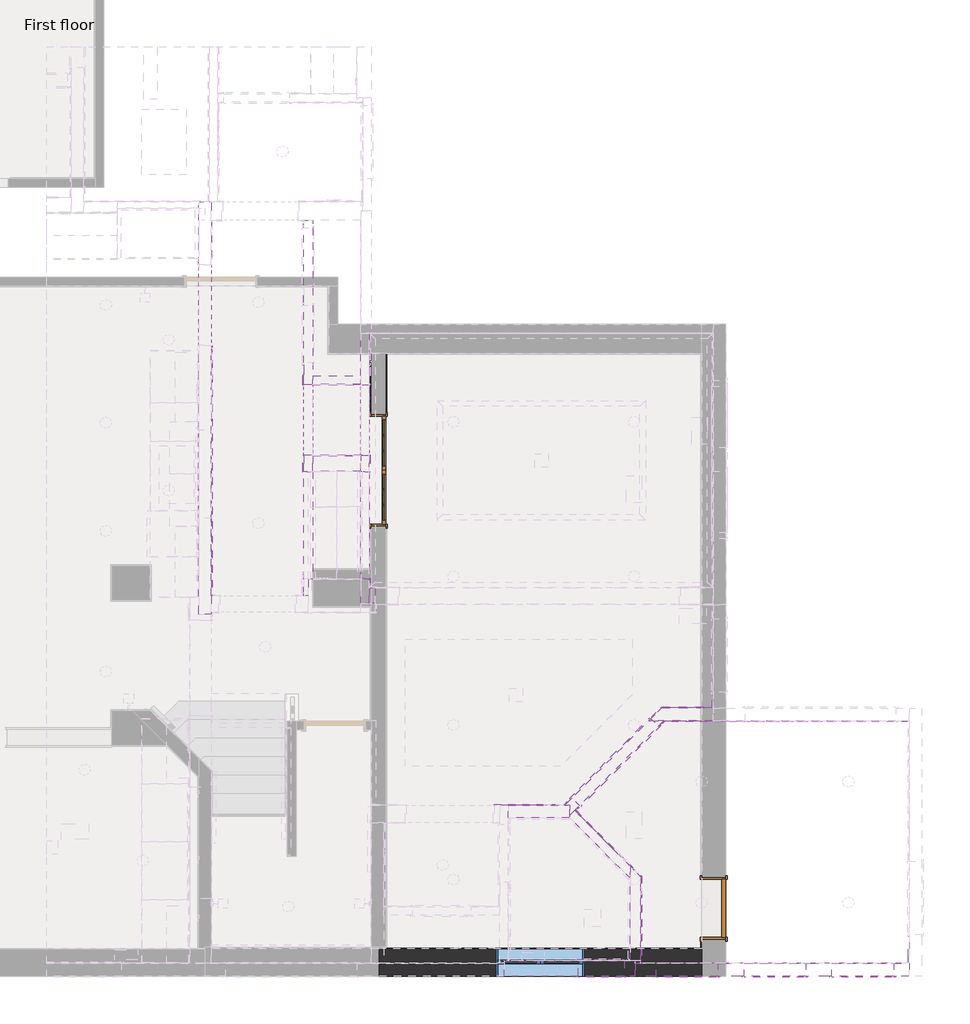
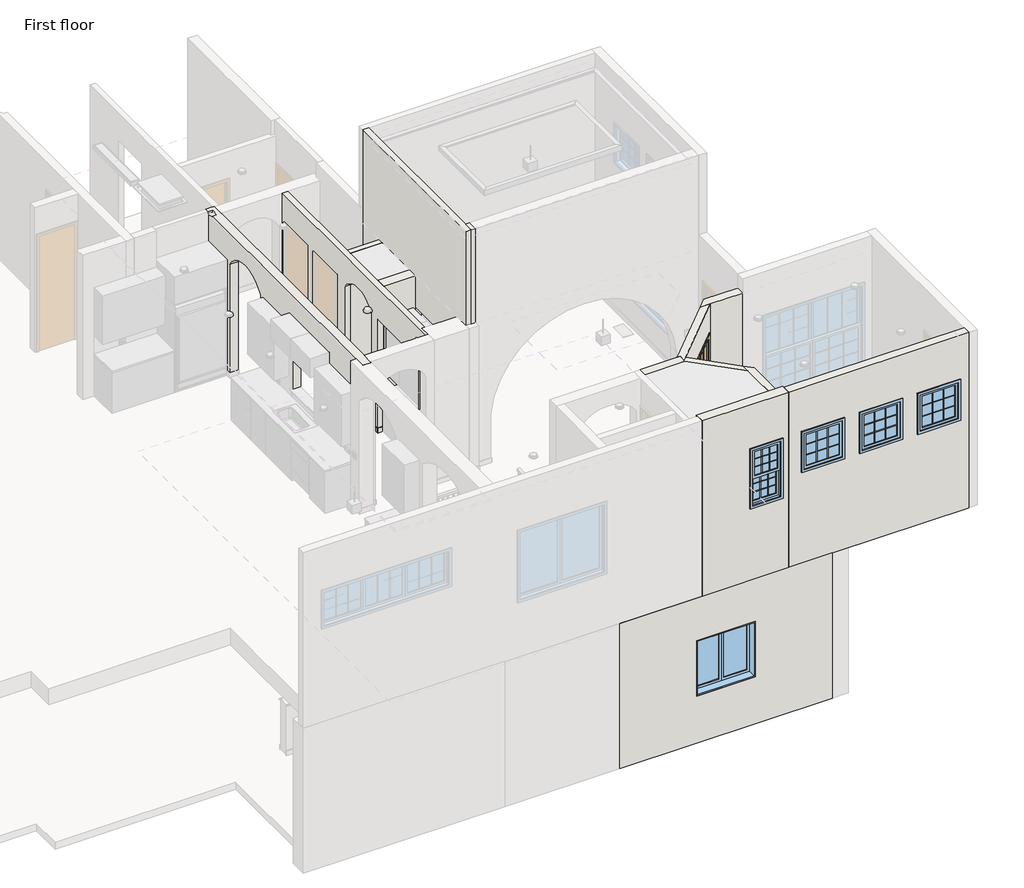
# One storey, part 5 of 14: 40 walls, 5 windows, 3 doors.
"""IFC4 building model written with IfcOpenShell, lengths in millimetres."""

from ifc_helpers import new_model, si_unit, frame, origin, origin_with_axes, place, context, project, spatial, polyline, circle_curve, outline, extrude, faceted_brep, transform, mapped, element, save
from ifc_brep_helpers import plane_surface, revolved_surface, advanced_brep
from components import door_4f8c3226, door_db3eb460, door_a7de0b9b, window_19f0d271, window_22d53a17, window_54868480

model = new_model("IFC4")

# Units and contexts
model_context = context("Model", 3, world=origin())
ifc_project = project(units=[si_unit("LENGTHUNIT", "METRE", prefix="MILLI")], contexts=[model_context])

# Site, building, storey
site = spatial("IfcSite", under=ifc_project)
building = spatial("IfcBuilding", under=site)
storey = spatial("IfcBuildingStorey", under=building, Name="First floor", Elevation=0.0)

# Doors
placement = place(None, origin())
door_shape = door_4f8c3226(model_context)
element("IfcDoor", 1, ObjectType="C_Double Door Glass : 4'-8\" X 8'-0\"", at=placement, inside=storey, context=model_context, shape_type="MappedRepresentation", body=[
    mapped(door_shape, transform((9417.8683118, 2814.0101841, 3251.2), x_axis=(0.7050813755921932, 0.7091264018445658, 0.0), y_axis=(-0.7091264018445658, 0.7050813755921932, 0.0), z_axis=(0.0, 0.0, 1.0))),
])
door_2_shape = door_db3eb460(model_context)
element("IfcDoor", 2, ObjectType="C_Double Door Glass : 4'-8\" X 8'-2\"", at=placement, inside=storey, context=model_context, shape_type="MappedRepresentation", body=[
    mapped(door_2_shape, transform((6305.55, 6654.8, 0.0), x_axis=(0.0, -1.0, 0.0), y_axis=(1.0, 0.0, 0.0), z_axis=(0.0, 0.0, 1.0))),
])
door_3_shape = door_a7de0b9b(model_context)
element("IfcDoor", 3, ObjectType="C_Single Door : 2'-6\" X 6'-8\"", at=placement, inside=storey, context=model_context, shape_type="MappedRepresentation", body=[
    mapped(door_3_shape, transform((10712.45, 889.0, 0.0), x_axis=(0.0, 1.0, 0.0), y_axis=(-1.0, 0.0, 0.0), z_axis=(0.0, 0.0, 1.0))),
])

# Walls
element("IfcWall", 4, ObjectType="Wall Border_T1", at=placement, inside=storey, context=model_context, shape_type="Brep", body=[
    faceted_brep([(10541.0, 457.2, 0.0), (10541.0, 368.3, 0.0), (10541.0, 355.6, 0.0), (10541.0, 355.6, 101.6), (10541.0, 368.3, 101.6), (10541.0, 457.2, 101.6), (10553.7, 457.2, 0.0), (10553.7, 457.2, 101.6), (10553.7, 355.6, 101.6), (10553.7, 355.6, 0.0)], [[[0, 1, 2, 3, 4, 5]], [[6, 7, 8, 9]], [[2, 1, 0, 6, 9]], [[5, 4, 3, 8, 7]], [[0, 5, 7, 6]], [[3, 2, 9, 8]]]),
])
element("IfcWall", 5, ObjectType="Wall Border_T1", at=placement, inside=storey, context=model_context, shape_type="Brep", body=[
    faceted_brep([(10541.0, 368.3, 0.0), (6413.5, 368.3, 0.0), (6400.8, 368.3, 0.0), (6400.8, 368.3, 101.6), (6413.5, 368.3, 101.6), (10541.0, 368.3, 101.6), (10541.0, 355.6, 0.0), (10541.0, 355.6, 101.6), (6400.8, 355.6, 101.6), (6400.8, 355.6, 0.0)], [[[0, 1, 2, 3, 4, 5]], [[6, 7, 8, 9]], [[2, 1, 0, 6, 9]], [[5, 4, 3, 8, 7]], [[3, 2, 9, 8]], [[0, 5, 7, 6]]]),
])
element("IfcWall", 6, ObjectType="Wall Border_T1", at=placement, inside=storey, context=model_context, shape_type="SweptSolid", body=[
    extrude(outline(polyline([(6400.8, 7416.8), (6400.8, 8178.8), (6413.5, 8178.8), (6413.5, 7416.8), (6400.8, 7416.8)])), origin_with_axes(), (0.0, 0.0, 1.0), 101.6),
])
element("IfcWall", 7, ObjectType="Wall Border_T1", at=placement, inside=storey, context=model_context, shape_type="Brep", body=[
    faceted_brep([(6197.6, 8191.5, 0.0), (6197.6, 8178.8, 0.0), (6197.6, 7416.8, 0.0), (6197.6, 7416.8, 101.6), (6197.6, 8178.8, 101.6), (6197.6, 8191.5, 101.6), (6210.3, 8191.5, 0.0), (6210.3, 8191.5, 101.6), (6210.3, 7416.8, 101.6), (6210.3, 7416.8, 0.0)], [[[0, 1, 2, 3, 4, 5]], [[6, 7, 8, 9]], [[2, 1, 0, 6, 9]], [[3, 2, 9, 8]], [[5, 4, 3, 8, 7]], [[0, 5, 7, 6]]]),
])
element("IfcWall", 8, ObjectType="Wall Border_T1", at=placement, inside=storey, context=model_context, shape_type="Brep", body=[
    faceted_brep([(4102.1, 8292.9947939, 3251.2), (4102.1, 5003.6947939, 3251.2), (4102.1, 5003.6947939, 3352.8), (4102.1, 8292.9947939, 3352.8), (4114.8, 8292.9947939, 3251.2), (4114.8, 8292.9947939, 3352.8), (4114.8, 5016.3947939, 3352.8), (4114.8, 5003.6947939, 3352.8), (4114.8, 5003.6947939, 3251.2), (4114.8, 5016.3947939, 3251.2)], [[[0, 1, 2, 3]], [[4, 5, 6, 7, 8, 9]], [[1, 0, 4, 9, 8]], [[3, 2, 7, 6, 5]], [[0, 3, 5, 4]], [[2, 1, 8, 7]]]),
])
element("IfcWall", 9, ObjectType="Wall Border_T1", at=placement, inside=storey, context=model_context, shape_type="Brep", body=[
    faceted_brep([(7823.2, 2247.9, 3251.2), (8756.4858755, 2247.9, 3251.2), (8756.4858755, 2247.9, 3352.8), (7823.2, 2247.9, 3352.8), (7823.2, 2260.6, 3251.2), (7823.2, 2260.6, 3352.8), (8751.2040717, 2260.6, 3352.8), (8769.1134317, 2260.6, 3352.8), (8769.1134317, 2260.6, 3251.2), (8751.2040717, 2260.6, 3251.2)], [[[0, 1, 2, 3]], [[4, 5, 6, 7, 8, 9]], [[1, 0, 4, 9, 8]], [[3, 2, 7, 6, 5]], [[0, 3, 5, 4]], [[2, 1, 8, 7]]]),
])
element("IfcWall", 10, ObjectType="Wall Border_T1", at=placement, inside=storey, context=model_context, shape_type="SweptSolid", body=[
    extrude(outline(polyline([(8751.2040717, 2260.6), (8822.0579191, 2331.8603334), (8831.0638244, 2322.9057999), (8769.1134317, 2260.6), (8751.2040717, 2260.6)])), frame((0.0, 0.0, 3251.2), z_axis=(0.0, 0.0, 1.0), x_axis=(1.0, 0.0, 0.0)), (0.0, 0.0, 1.0), 101.6),
])
element("IfcWall", 11, ObjectType="Wall Border_T1", at=placement, inside=storey, context=model_context, shape_type="Brep", body=[
    faceted_brep([(5308.6, 8038.9947939, 3251.2), (5308.6, 7772.2947939, 3251.2), (5308.6, 7772.2947939, 3352.8), (5308.6, 8038.9947939, 3352.8), (5321.3, 8038.9947939, 3251.2), (5321.3, 8038.9947939, 3352.8), (5321.3, 7784.9947939, 3352.8), (5321.3, 7772.2947939, 3352.8), (5321.3, 7772.2947939, 3251.2), (5321.3, 7784.9947939, 3251.2)], [[[0, 1, 2, 3]], [[4, 5, 6, 7, 8, 9]], [[1, 0, 4, 9, 8]], [[3, 2, 7, 6, 5]], [[0, 3, 5, 4]], [[2, 1, 8, 7]]]),
])
element("IfcWall", 12, ObjectType="Wall Border_T1", at=placement, inside=storey, context=model_context, shape_type="Brep", body=[
    faceted_brep([(5321.3, 7772.2947939, 3251.2), (6197.5999991, 7772.2947939, 3251.2), (6197.5999991, 7772.2947939, 3352.8), (5321.3, 7772.2947939, 3352.8), (5321.3, 7784.9947939, 3251.2), (5321.3, 7784.9947939, 3352.8), (6184.8999991, 7784.9947939, 3352.8), (6197.5999991, 7784.9947939, 3352.8), (6197.5999991, 7784.9947939, 3251.2), (6184.8999991, 7784.9947939, 3251.2)], [[[0, 1, 2, 3]], [[4, 5, 6, 7, 8, 9]], [[1, 0, 4, 9, 8]], [[3, 2, 7, 6, 5]], [[0, 3, 5, 4]], [[2, 1, 8, 7]]]),
])
element("IfcWall", 13, ObjectType="Wall Border_T1", at=placement, inside=storey, context=model_context, shape_type="Brep", body=[
    faceted_brep([(10693.4, 3708.4, 3251.2), (10693.4, 3543.3, 3251.2), (10693.4, 3530.6, 3251.2), (10693.4, 3530.6, 3352.8), (10693.4, 3543.3, 3352.8), (10693.4, 3708.4, 3352.8), (10706.1, 3708.4, 3251.2), (10706.1, 3708.4, 3352.8), (10706.1, 3530.6, 3352.8), (10706.1, 3530.6, 3251.2)], [[[0, 1, 2, 3, 4, 5]], [[6, 7, 8, 9]], [[2, 1, 0, 6, 9]], [[5, 4, 3, 8, 7]], [[0, 5, 7, 6]], [[3, 2, 9, 8]]]),
])
element("IfcWall", 14, ObjectType="Wall Border_T1", at=placement, inside=storey, context=model_context, shape_type="Brep", body=[
    faceted_brep([(10693.4, 3543.3, 3251.2), (10026.5872447, 3543.3, 3251.2), (10026.5872447, 3543.3, 3352.8), (10693.4, 3543.3, 3352.8), (10693.4, 3530.6, 3251.2), (10693.4, 3530.6, 3352.8), (10031.8690485, 3530.6, 3352.8), (10013.9596886, 3530.6, 3352.8), (10013.9596886, 3530.6, 3251.2), (10031.8690485, 3530.6, 3251.2)], [[[0, 1, 2, 3]], [[4, 5, 6, 7, 8, 9]], [[1, 0, 4, 9, 8]], [[3, 2, 7, 6, 5]], [[2, 1, 8, 7]], [[0, 3, 5, 4]]]),
])
element("IfcWall", 15, ObjectType="Wall Border_T1", at=placement, inside=storey, context=model_context, shape_type="SweptSolid", body=[
    extrude(outline(polyline([(9896.5774772, 3412.5443711), (10013.9596886, 3530.6), (10031.8690485, 3530.6), (9905.5833825, 3403.5898377), (9896.5774772, 3412.5443711)])), frame((0.0, 0.0, 3251.2), z_axis=(0.0, 0.0, 1.0), x_axis=(1.0, 0.0, 0.0)), (0.0, 0.0, 1.0), 101.6),
])
element("IfcWall", 16, ObjectType="Wall Border_T1", at=placement, inside=storey, context=model_context, shape_type="Brep", body=[
    faceted_brep([(10013.6787045, 3296.1600347, 3251.2), (10063.6818038, 3346.45, 3251.2), (10076.30936, 3359.15, 3251.2), (10076.30936, 3359.15, 3352.8), (10063.6818038, 3346.45, 3352.8), (10013.6787045, 3296.1600347, 3352.8), (10004.6727992, 3305.1145682, 3251.2), (10004.6727992, 3305.1145682, 3352.8), (10058.4, 3359.15, 3352.8), (10058.4, 3359.15, 3251.2)], [[[0, 1, 2, 3, 4, 5]], [[6, 7, 8, 9]], [[2, 1, 0, 6, 9]], [[5, 4, 3, 8, 7]], [[0, 5, 7, 6]], [[3, 2, 9, 8]]]),
])
element("IfcWall", 17, ObjectType="Wall Border_T1", at=placement, inside=storey, context=model_context, shape_type="SweptSolid", body=[
    extrude(outline(polyline([(13271.5, 3346.45), (10063.6818038, 3346.45), (10076.30936, 3359.15), (13271.5, 3359.15), (13271.5, 3346.45)])), frame((0.0, 0.0, 3251.2), z_axis=(0.0, 0.0, 1.0), x_axis=(1.0, 0.0, 0.0)), (0.0, 0.0, 1.0), 101.6),
])
element("IfcWall", 18, ObjectType="Wall Border_T1", at=placement, inside=storey, context=model_context, shape_type="Brep", body=[
    faceted_brep([(13271.5, 520.7, 3251.2), (13271.5, 177.8, 3251.2), (13271.5, 165.1, 3251.2), (13271.5, 165.1, 3352.8), (13271.5, 177.8, 3352.8), (13271.5, 520.7, 3352.8), (13284.2, 520.7, 3251.2), (13284.2, 520.7, 3352.8), (13284.2, 165.1, 3352.8), (13284.2, 165.1, 3251.2)], [[[0, 1, 2, 3, 4, 5]], [[6, 7, 8, 9]], [[2, 1, 0, 6, 9]], [[5, 4, 3, 8, 7]], [[0, 5, 7, 6]], [[3, 2, 9, 8]]]),
])
element("IfcWall", 19, ObjectType="Wall Border_T1", at=placement, inside=storey, context=model_context, shape_type="Brep", body=[
    faceted_brep([(13271.5, 177.8, 3251.2), (9766.3, 177.8, 3251.2), (9753.6, 177.8, 3251.2), (9753.6, 177.8, 3352.8), (9766.3, 177.8, 3352.8), (13271.5, 177.8, 3352.8), (13271.5, 165.1, 3251.2), (13271.5, 165.1, 3352.8), (9753.6, 165.1, 3352.8), (9753.6, 165.1, 3251.2)], [[[0, 1, 2, 3, 4, 5]], [[6, 7, 8, 9]], [[2, 1, 0, 6, 9]], [[5, 4, 3, 8, 7]], [[0, 5, 7, 6]], [[3, 2, 9, 8]]]),
])
element("IfcWall", 20, ObjectType="Wall Border_T1", at=placement, inside=storey, context=model_context, shape_type="Brep", body=[
    faceted_brep([(9766.3, 177.8, 3251.2), (9766.3, 1313.3605122, 3251.2), (9766.3, 1313.3605122, 3352.8), (9766.3, 177.8, 3352.8), (9753.6, 177.8, 3251.2), (9753.6, 177.8, 3352.8), (9753.6, 1308.1, 3352.8), (9753.6, 1326.0605122, 3352.8), (9753.6, 1326.0605122, 3251.2), (9753.6, 1308.1, 3251.2)], [[[0, 1, 2, 3]], [[4, 5, 6, 7, 8, 9]], [[1, 0, 4, 9, 8]], [[3, 2, 7, 6, 5]], [[2, 1, 8, 7]], [[0, 3, 5, 4]]]),
])
element("IfcWall", 21, ObjectType="Wall Border_T1", at=placement, inside=storey, context=model_context, shape_type="Brep", body=[
    faceted_brep([(9753.6, 1326.0605122, 3251.2), (8901.779055, 2177.8814573, 3251.2), (8892.7987621, 2186.8617501, 3251.2), (8892.7987621, 2186.8617501, 3352.8), (8901.779055, 2177.8814573, 3352.8), (9753.6, 1326.0605122, 3352.8), (9753.6, 1308.1, 3251.2), (9753.6, 1308.1, 3352.8), (8883.844192, 2177.855808, 3352.8), (8883.844192, 2177.855808, 3251.2)], [[[0, 1, 2, 3, 4, 5]], [[6, 7, 8, 9]], [[2, 1, 0, 6, 9]], [[5, 4, 3, 8, 7]], [[0, 5, 7, 6]], [[3, 2, 9, 8]]]),
])
element("IfcWall", 22, ObjectType="Wall Border_T1", at=placement, inside=storey, context=model_context, shape_type="SweptSolid", body=[
    extrude(outline(polyline([(8939.1433243, 2215.4600841), (8901.779055, 2177.8814573), (8892.7987621, 2186.8617501), (8930.137419, 2224.4146175), (8939.1433243, 2215.4600841)])), frame((0.0, 0.0, 3251.2), z_axis=(0.0, 0.0, 1.0), x_axis=(1.0, 0.0, 0.0)), (0.0, 0.0, 1.0), 101.6),
])
element("IfcWall", 23, ObjectType="Wall Border_T1", at=placement, inside=storey, context=model_context, shape_type="Brep", body=[
    faceted_brep([(6197.5999991, 5118.1001027, 3251.2), (6197.5999991, 5232.2947939, 3251.2), (6197.5999991, 5232.2947939, 3352.8), (6197.5999991, 5118.1001027, 3352.8), (6184.8999991, 5118.1001027, 3251.2), (6184.8999991, 5118.1001027, 3352.8), (6184.8999991, 5219.5947939, 3352.8), (6184.8999991, 5232.2947939, 3352.8), (6184.8999991, 5232.2947939, 3251.2), (6184.8999991, 5219.5947939, 3251.2)], [[[0, 1, 2, 3]], [[4, 5, 6, 7, 8, 9]], [[1, 0, 4, 9, 8]], [[3, 2, 7, 6, 5]], [[0, 3, 5, 4]], [[2, 1, 8, 7]]]),
])
element("IfcWall", 24, ObjectType="Wall Border_T1", at=placement, inside=storey, context=model_context, shape_type="SweptSolid", body=[
    extrude(outline(polyline([(6057.9, 5232.2947939), (6184.8999991, 5232.2947939), (6184.8999991, 5219.5947939), (6057.9, 5219.5947939), (6057.9, 5232.2947939)])), frame((0.0, 0.0, 3251.2), z_axis=(0.0, 0.0, 1.0), x_axis=(1.0, 0.0, 0.0)), (0.0, 0.0, 1.0), 101.6),
])
element("IfcWall", 25, ObjectType="Wall Border_T1", at=placement, inside=storey, context=model_context, shape_type="Brep", body=[
    faceted_brep([(5410.2, 6641.9947939, 3251.2), (5321.3, 6641.9947939, 3251.2), (5308.6, 6641.9947939, 3251.2), (5308.6, 6641.9947939, 3352.8), (5321.3, 6641.9947939, 3352.8), (5410.2, 6641.9947939, 3352.8), (5410.2, 6629.2947939, 3251.2), (5410.2, 6629.2947939, 3352.8), (5308.6, 6629.2947939, 3352.8), (5308.6, 6629.2947939, 3251.2)], [[[0, 1, 2, 3, 4, 5]], [[6, 7, 8, 9]], [[2, 1, 0, 6, 9]], [[5, 4, 3, 8, 7]], [[0, 5, 7, 6]], [[3, 2, 9, 8]]]),
])
element("IfcWall", 26, ObjectType="Wall Border_T1", at=placement, inside=storey, context=model_context, shape_type="Brep", body=[
    faceted_brep([(5321.3, 6641.9947939, 3251.2), (5321.3, 6845.1947939, 3251.2), (5321.3, 6857.8947939, 3251.2), (5321.3, 6857.8947939, 3352.8), (5321.3, 6845.1947939, 3352.8), (5321.3, 6641.9947939, 3352.8), (5308.6, 6641.9947939, 3251.2), (5308.6, 6641.9947939, 3352.8), (5308.6, 6857.8947939, 3352.8), (5308.6, 6857.8947939, 3251.2)], [[[0, 1, 2, 3, 4, 5]], [[6, 7, 8, 9]], [[2, 1, 0, 6, 9]], [[5, 4, 3, 8, 7]], [[0, 5, 7, 6]], [[3, 2, 9, 8]]]),
])
element("IfcWall", 27, ObjectType="Wall Border_T1", at=placement, inside=storey, context=model_context, shape_type="Brep", body=[
    faceted_brep([(5321.3, 6845.1947939, 3251.2), (6184.8999991, 6845.1947939, 3251.2), (6197.5999991, 6845.1947939, 3251.2), (6197.5999991, 6845.1947939, 3352.8), (6184.8999991, 6845.1947939, 3352.8), (5321.3, 6845.1947939, 3352.8), (5321.3, 6857.8947939, 3251.2), (5321.3, 6857.8947939, 3352.8), (6197.5999991, 6857.8947939, 3352.8), (6197.5999991, 6857.8947939, 3251.2)], [[[0, 1, 2, 3, 4, 5]], [[6, 7, 8, 9]], [[2, 1, 0, 6, 9]], [[5, 4, 3, 8, 7]], [[0, 5, 7, 6]], [[3, 2, 9, 8]]]),
])
element("IfcWall", 28, ObjectType="Wall Border_T1", at=placement, inside=storey, context=model_context, shape_type="Brep", body=[
    faceted_brep([(6184.8999991, 6845.1947939, 3251.2), (6184.8999991, 6641.9947939, 3251.2), (6184.8999991, 6629.2947939, 3251.2), (6184.8999991, 6629.2947939, 3352.8), (6184.8999991, 6641.9947939, 3352.8), (6184.8999991, 6845.1947939, 3352.8), (6197.5999991, 6845.1947939, 3251.2), (6197.5999991, 6845.1947939, 3352.8), (6197.5999991, 6629.2947939, 3352.8), (6197.5999991, 6629.2947939, 3251.2)], [[[0, 1, 2, 3, 4, 5]], [[6, 7, 8, 9]], [[2, 1, 0, 6, 9]], [[5, 4, 3, 8, 7]], [[3, 2, 9, 8]], [[0, 5, 7, 6]]]),
])
element("IfcWall", 29, ObjectType="Wall Border_T1", at=placement, inside=storey, context=model_context, shape_type="SweptSolid", body=[
    extrude(outline(polyline([(6057.9, 6641.9947939), (6184.8999991, 6641.9947939), (6184.8999991, 6629.2947939), (6057.9, 6629.2947939), (6057.9, 6641.9947939)])), frame((0.0, 0.0, 3251.2), z_axis=(0.0, 0.0, 1.0), x_axis=(1.0, 0.0, 0.0)), (0.0, 0.0, 1.0), 101.6),
])
element("IfcWall", 30, ObjectType="Wall_1'2\"", at=placement, inside=storey, context=model_context, shape_type="Brep", body=[
    faceted_brep([(10553.7, 355.6, -152.4), (6305.55, 355.6, -152.4), (6305.55, 355.6, 0.0), (6305.55, 355.6, 2565.4), (6305.55, 355.6, 2908.3), (10553.7, 355.6, 2908.3), (7848.6, 355.6, 2006.6), (7848.6, 355.6, 838.2), (9017.0, 355.6, 838.2), (9017.0, 355.6, 2006.6), (10553.7, 0.0, -152.4), (10553.7, 0.0, 2908.3), (6305.55, 0.0, 2908.3), (6305.55, 0.0, -152.4), (7848.6, 0.0, 2006.6), (9017.0, 0.0, 2006.6), (9017.0, 0.0, 838.2), (7848.6, 0.0, 838.2)], [[[0, 1, 2, 3, 4, 5], [6, 7, 8, 9]], [[10, 11, 12, 13], [14, 15, 16, 17]], [[1, 0, 10, 13]], [[4, 3, 2, 1, 13, 12]], [[5, 4, 12, 11]], [[0, 5, 11, 10]], [[15, 14, 6, 9]], [[16, 15, 9, 8]], [[17, 16, 8, 7]], [[14, 17, 7, 6]]]),
])
element("IfcWall", 31, ObjectType="Wall_4.5\"", at=placement, inside=storey, context=model_context, shape_type="AdvancedBrep", body=[
    advanced_brep(
    [(5435.6, 9943.9947939, 6299.2), (5435.6, 7899.2947939, 6299.2), (5435.6, 7784.9947939, 6299.2), (5435.6, 6845.1947939, 6299.2), (5435.6, 6641.9947939, 6299.2), (5435.6, 5219.5947939, 6299.2), (5435.6, 5219.5947939, 5638.8), (5435.6, 6641.9947939, 5638.8), (5435.6, 6641.9947939, 3251.2), (5435.6, 6845.1947939, 3251.2), (5435.6, 6845.1947939, 5638.8), (5435.6, 7784.9947939, 5638.8), (5435.6, 7784.9947939, 3251.2), (5435.6, 7899.2947939, 3251.2), (5435.6, 8064.3947939, 3251.2), (5435.6, 8064.3947939, 5715.0), (5435.6, 8826.3947939, 5715.0), (5435.6, 8826.3947939, 3251.2), (5435.6, 9080.3947939, 3251.2), (5435.6, 9080.3947939, 5715.0), (5435.6, 9842.3947939, 5715.0), (5435.6, 9842.3947939, 3251.2), (5435.6, 9943.9947939, 3251.2), (5321.3, 5003.6947939, 6299.2), (5321.3, 9943.9947939, 6299.2), (5321.3, 9943.9947939, 3251.2), (5321.3, 9842.3947939, 3251.2), (5321.3, 9842.3947939, 5715.0), (5321.3, 9080.3947939, 5715.0), (5321.3, 9080.3947939, 3251.2), (5321.3, 8826.3947939, 3251.2), (5321.3, 8826.3947939, 5715.0), (5321.3, 8064.3947939, 5715.0), (5321.3, 8064.3947939, 3251.2), (5321.3, 7784.9947939, 3251.2), (5321.3, 7784.9947939, 5638.8), (5321.3, 6845.1947939, 5638.8), (5321.3, 6845.1947939, 3251.2), (5321.3, 6641.9947939, 3251.2), (5321.3, 6641.9947939, 5638.8), (5321.3, 5219.5947939, 5638.8), (5321.3, 5219.5947939, 3251.2), (5321.3, 5016.3947939, 3251.2), (5321.3, 5003.6947939, 3251.2), (5321.3, 5003.6947939, 3352.8), (5378.45, 5219.5947939, 3251.2), (5378.45, 5003.6947939, 3251.2), (5378.45, 5003.6947939, 6299.2), (5378.45, 5219.5947939, 6299.2), (5378.45, 5219.5947939, 5638.8)],
    [
        (0, 1),
        (1, 2),
        (2, 3),
        (3, 4),
        (4, 5),
        (5, 6),
        (6, 7),
        (7, 8),
        (8, 9),
        (9, 10),
        (10, 11, circle_curve(frame((5435.6, 7315.0947939, 5331.1425), z_axis=(-1.0, 0.0, 0.0), x_axis=(0.0, -1.0, 0.0)), 561.6575)),
        (11, 12),
        (12, 13),
        (13, 14),
        (14, 15),
        (15, 16),
        (16, 17),
        (17, 18),
        (18, 19),
        (19, 20),
        (20, 21),
        (21, 22),
        (22, 0),
        (23, 24),
        (24, 25),
        (25, 26),
        (26, 27),
        (27, 28),
        (28, 29),
        (29, 30),
        (30, 31),
        (31, 32),
        (32, 33),
        (33, 34),
        (34, 35),
        (35, 36, circle_curve(frame((5321.3, 7315.0947939, 5331.1425), z_axis=(1.0, 0.0, 0.0), x_axis=(0.0, -1.0, 0.0)), 561.6575)),
        (36, 37),
        (37, 38),
        (38, 39),
        (39, 40),
        (40, 41),
        (41, 42),
        (42, 43),
        (43, 44),
        (44, 23),
        (25, 22),
        (21, 26),
        (45, 46),
        (46, 43),
        (41, 45),
        (17, 30),
        (29, 18),
        (37, 9),
        (8, 38),
        (12, 34),
        (33, 14),
        (0, 24),
        (23, 47),
        (47, 48),
        (48, 5),
        (48, 49),
        (49, 6),
        (47, 46),
        (45, 49),
        (11, 35),
        (36, 10),
        (49, 40),
        (39, 7),
        (16, 31),
        (15, 32),
        (20, 27),
        (19, 28),
    ],
    [
        plane_surface(frame((5435.6, 5007.0757148, 3251.2), z_axis=(1.0, 0.0, 0.0), x_axis=(0.0, 1.0, 0.0))),
        plane_surface(frame((5321.3, 5007.0757148, 3251.2), z_axis=(-1.0, 0.0, 0.0), x_axis=(0.0, -1.0, 0.0))),
        plane_surface(frame((5435.6, 4895.7447939, 3251.2), z_axis=(0.0, 0.0, -1.0), x_axis=(-1.0, 0.0, 0.0))),
        plane_surface(frame((5435.6, 10064.6447939, 6299.2), z_axis=(0.0, 0.0, 1.0), x_axis=(-1.0, 0.0, 0.0))),
        plane_surface(frame((6070.6, 9943.9947939, 2908.3), z_axis=(0.0, 1.0, 0.0), x_axis=(1.0, 0.0, 0.0))),
        plane_surface(frame((7962.9, 5219.5947939, 3098.8), z_axis=(0.0, -1.0, 0.0), x_axis=(1.0, 0.0, 0.0))),
        plane_surface(frame((5378.45, 5111.6447939, 3098.8), z_axis=(1.0, 0.0, 0.0), x_axis=(0.0, 1.0, 0.0))),
        plane_surface(frame((2794.0, 5003.6947939, 3098.8), z_axis=(0.0, -1.0, 0.0), x_axis=(1.0, 0.0, 0.0))),
        plane_surface(frame((5435.6, 7784.9947939, 3251.2), z_axis=(0.0, -1.0, 0.0), x_axis=(-1.0, 0.0, 0.0))),
        plane_surface(frame((5435.6, 6845.1947939, 5638.8), z_axis=(0.0, 1.0, 0.0), x_axis=(-1.0, 0.0, 0.0))),
        revolved_surface(polyline([(5435.6, 6753.4372938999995, 5331.1425), (5321.3, 6753.4372938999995, 5331.1425)]), (5321.3, 7315.0947939, 5331.1425), (1.0, 0.0, 0.0)),
        plane_surface(frame((5575.3, 6641.9947939, 5638.8), z_axis=(0.0, 0.0, -1.0), x_axis=(-1.0, 0.0, 0.0))),
        plane_surface(frame((5575.3, 5219.5947939, 5638.8), z_axis=(0.0, 1.0, 0.0), x_axis=(-1.0, 0.0, 0.0))),
        plane_surface(frame((5575.3, 6641.9947939, 3251.2), z_axis=(0.0, -1.0, 0.0), x_axis=(-1.0, 0.0, 0.0))),
        plane_surface(frame((5321.3, 8826.3947939, 3251.2), z_axis=(0.0, -1.0, 0.0), x_axis=(1.0, 0.0, 0.0))),
        plane_surface(frame((5321.3, 8826.3947939, 5715.0), z_axis=(0.0, 0.0, -1.0), x_axis=(1.0, 0.0, 0.0))),
        plane_surface(frame((5321.3, 8064.3947939, 5715.0), z_axis=(0.0, 1.0, 0.0), x_axis=(1.0, 0.0, 0.0))),
        plane_surface(frame((5321.3, 9842.3947939, 3251.2), z_axis=(0.0, -1.0, 0.0), x_axis=(1.0, 0.0, 0.0))),
        plane_surface(frame((5321.3, 9842.3947939, 5715.0), z_axis=(0.0, 0.0, -1.0), x_axis=(1.0, 0.0, 0.0))),
        plane_surface(frame((5321.3, 9080.3947939, 5715.0), z_axis=(0.0, 1.0, 0.0), x_axis=(1.0, 0.0, 0.0))),
    ],
    [
        (0, [[1, 2, 3, 4, 5, 6, 7, 8, 9, 10, 11, 12, 13, 14, 15, 16, 17, 18, 19, 20, 21, 22, 23]]),
        (1, [[24, 25, 26, 27, 28, 29, 30, 31, 32, 33, 34, 35, 36, 37, 38, 39, 40, 41, 42, 43, 44, 45]]),
        (2, [[46, -22, 47, -26]]),
        (2, [[48, 49, -43, -42, 50]]),
        (2, [[-18, 51, -30, 52]]),
        (2, [[53, -9, 54, -38]]),
        (2, [[-14, -13, 55, -34, 56]]),
        (3, [[-5, -4, -3, -2, -1, 57, -24, 58, 59, 60]]),
        (4, [[-23, -46, -25, -57]]),
        (5, [[-60, 61, 62, -6]]),
        (6, [[-59, 63, -48, 64, -61]]),
        (7, [[-45, -44, -49, -63, -58]]),
        (8, [[65, -35, -55, -12]]),
        (9, [[66, -10, -53, -37]]),
        (10, [[-65, -11, -66, -36]]),
        (11, [[67, -40, 68, -7, -62]]),
        (12, [[-67, -64, -50, -41]]),
        (13, [[-68, -39, -54, -8]]),
        (14, [[-31, -51, -17, 69]]),
        (15, [[-32, -69, -16, 70]]),
        (16, [[-33, -70, -15, -56]]),
        (17, [[-27, -47, -21, 71]]),
        (18, [[-28, -71, -20, 72]]),
        (19, [[-29, -72, -19, -52]]),
    ],
),
])
element("IfcWall", 32, ObjectType="Wall_4.5\"", at=placement, inside=storey, context=model_context, shape_type="AdvancedBrep", body=[
    advanced_brep(
    [(6184.8999991, 8458.2, 8280.4), (6184.8999991, 5105.2947939, 8280.4), (6184.8999991, 4902.0947939, 8280.4), (6184.8999991, 4902.0947939, 3251.2), (6184.8999991, 5105.4001027, 3251.2), (6184.8999991, 5118.1001027, 3251.2), (6184.8999991, 5219.5947939, 3251.2), (6184.8999991, 5219.5947939, 5638.8), (6184.8999991, 6641.9947939, 5638.8), (6184.8999991, 6641.9947939, 3251.2), (6184.8999991, 6845.1947939, 3251.2), (6184.8999991, 6845.1947939, 5638.8), (6184.8999991, 7784.9947939, 5638.8), (6184.8999991, 7784.9947939, 3251.2), (6184.8999991, 8458.2, 3251.2), (6070.5999991, 4902.0947939, 8280.4), (6070.5999991, 8458.2, 8280.4), (6070.5999991, 8458.2, 6604.0), (6070.5999991, 8458.2, 3251.2), (6070.5999991, 7899.2947939, 3251.2), (6070.5999991, 7784.9947939, 3251.2), (6070.5999991, 7784.9947939, 5638.8), (6070.5999991, 6845.1947939, 5638.8), (6070.5999991, 6845.1947939, 3251.2), (6070.5999991, 6641.9947939, 3251.2), (6070.5999991, 6641.9947939, 5638.8), (6070.5999991, 5219.5947939, 5638.8), (6070.5999991, 5219.5947939, 3251.2), (6070.5999991, 4902.0947939, 3251.2), (6070.5999991, 4902.0947939, 6299.2)],
    [
        (0, 1),
        (1, 2),
        (2, 3),
        (3, 4),
        (4, 5),
        (5, 6),
        (6, 7),
        (7, 8),
        (8, 9),
        (9, 10),
        (10, 11),
        (11, 12, circle_curve(frame((6184.8999991, 7315.0947939, 5331.1425), z_axis=(-1.0, 0.0, 0.0), x_axis=(0.0, -1.0, 0.0)), 561.6575)),
        (12, 13),
        (13, 14),
        (14, 0),
        (15, 16),
        (16, 17),
        (17, 18),
        (18, 19),
        (19, 20),
        (20, 21),
        (21, 22, circle_curve(frame((6070.5999991, 7315.0947939, 5331.1425), z_axis=(1.0, 0.0, 0.0), x_axis=(0.0, -1.0, 0.0)), 561.6575)),
        (22, 23),
        (23, 24),
        (24, 25),
        (25, 26),
        (26, 27),
        (27, 28),
        (28, 29),
        (29, 15),
        (18, 14),
        (13, 20),
        (9, 24),
        (23, 10),
        (27, 6),
        (3, 28),
        (0, 16),
        (15, 2),
        (25, 8),
        (7, 26),
        (12, 21),
        (22, 11),
    ],
    [
        plane_surface(frame((6184.8999991, 4893.690132, 3251.2), z_axis=(1.0, 0.0, 0.0), x_axis=(0.0, 1.0, 0.0))),
        plane_surface(frame((6070.5999991, 4893.690132, 3251.2), z_axis=(-1.0, 0.0, 0.0), x_axis=(0.0, -1.0, 0.0))),
        plane_surface(frame((6184.8999991, 4844.9447939, 3251.2), z_axis=(0.0, 0.0, -1.0), x_axis=(-1.0, 0.0, 0.0))),
        plane_surface(frame((6184.8999991, 8515.35, 8280.4), z_axis=(0.0, 0.0, 1.0), x_axis=(-1.0, 0.0, 0.0))),
        plane_surface(frame((10654.7717488, 8458.2, 2908.3), z_axis=(0.0, 1.0, 0.0), x_axis=(1.0, 0.0, 0.0))),
        plane_surface(frame((6070.5999991, 5219.5947939, 5638.8), z_axis=(0.0, 0.0, -1.0), x_axis=(1.0, 0.0, 0.0))),
        plane_surface(frame((6070.5999991, 6641.9947939, 5638.8), z_axis=(0.0, -1.0, 0.0), x_axis=(1.0, 0.0, 0.0))),
        plane_surface(frame((6070.5999991, 5219.5947939, 3251.2), z_axis=(0.0, 1.0, 0.0), x_axis=(1.0, 0.0, 0.0))),
        plane_surface(frame((6070.5999991, 7784.9947939, 5638.8), z_axis=(0.0, -1.0, 0.0), x_axis=(1.0, 0.0, 0.0))),
        plane_surface(frame((6070.5999991, 6845.1947939, 3251.2), z_axis=(0.0, 1.0, 0.0), x_axis=(1.0, 0.0, 0.0))),
        revolved_surface(polyline([(6070.5999991, 6753.4372938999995, 5331.1425), (6184.8999991, 6753.4372938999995, 5331.1425)]), (6184.8999991, 7315.0947939, 5331.1425), (-1.0, 0.0, 0.0)),
        plane_surface(frame((6244.8014799, 4902.0947939, 3251.2), z_axis=(0.0, -1.0, 0.0), x_axis=(1.0, 0.0, 0.0))),
    ],
    [
        (0, [[1, 2, 3, 4, 5, 6, 7, 8, 9, 10, 11, 12, 13, 14, 15]]),
        (1, [[16, 17, 18, 19, 20, 21, 22, 23, 24, 25, 26, 27, 28, 29, 30]]),
        (2, [[31, -14, 32, -20, -19]]),
        (2, [[33, -24, 34, -10]]),
        (2, [[35, -6, -5, -4, 36, -28]]),
        (3, [[-2, -1, 37, -16, 38]]),
        (4, [[-15, -31, -18, -17, -37]]),
        (5, [[39, -8, 40, -26]]),
        (6, [[-39, -25, -33, -9]]),
        (7, [[-40, -7, -35, -27]]),
        (8, [[41, -21, -32, -13]]),
        (9, [[42, -11, -34, -23]]),
        (10, [[-41, -12, -42, -22]]),
        (11, [[-38, -30, -29, -36, -3]]),
    ],
),
])
element("IfcWall", 33, ObjectType="Wall_4.5\"", at=placement, inside=storey, context=model_context, shape_type="Brep", body=[
    faceted_brep([(5435.6, 7784.9947939, 3251.2), (6070.5999991, 7784.9947939, 3251.2), (6070.5999991, 7784.9947939, 5638.8), (6070.5999991, 7784.9947939, 6299.2), (5435.6, 7784.9947939, 6299.2), (5435.6, 7784.9947939, 5638.8), (5435.6, 7899.2947939, 3251.2), (5435.6, 7899.2947939, 6299.2), (6070.5999991, 7899.2947939, 6299.2), (6070.5999991, 7899.2947939, 3251.2)], [[[0, 1, 2, 3, 4, 5]], [[6, 7, 8, 9]], [[1, 0, 6, 9]], [[4, 3, 8, 7]], [[0, 5, 4, 7, 6]], [[3, 2, 1, 9, 8]]]),
])
element("IfcWall", 34, ObjectType="Wall_4.5\"", at=placement, inside=storey, context=model_context, shape_type="SweptSolid", body=[
    extrude(outline(polyline([(9613.9, 1447.8), (9613.9, 1286.1553898), (8817.2553898, 2082.8), (8817.2553898, 2121.2558172), (8822.4407194, 2116.1000659), (8883.844192, 2177.855808), (9613.9, 1447.8)])), frame((0.0, 0.0, 3251.2), z_axis=(0.0, 0.0, 1.0), x_axis=(1.0, 0.0, 0.0)), (0.0, 0.0, 1.0), 3048.0),
])
element("IfcWall", 35, ObjectType="Wall_5.5\"", at=placement, inside=storey, context=model_context, shape_type="Brep", body=[
    faceted_brep([(9861.3970403, 3359.15, 6299.2), (9861.3970403, 3359.15, 5715.0), (8848.9728914, 2340.9176105, 5715.0), (8848.9728914, 2340.9176105, 3251.2), (8756.4858755, 2247.9, 3251.2), (8756.4858755, 2247.9, 6299.2), (8822.4407194, 2116.1000659, 6299.2), (8822.4407194, 2116.1000659, 3251.2), (8883.844192, 2177.855808, 3251.2), (8892.7987621, 2186.8617501, 3251.2), (8948.0378497, 2242.4177424, 3251.2), (8948.0378497, 2242.4177424, 5715.0), (9986.7637322, 3287.1027576, 5715.0), (9986.7637322, 3287.1027576, 3251.2), (10058.4, 3359.15, 3251.2), (10058.4, 3359.15, 6299.2), (8883.844192, 2177.855808, 6299.2), (9914.3031574, 3359.15, 3251.2), (8817.2553898, 2121.2558172, 3251.2), (8817.2553898, 2247.9, 3251.2), (8817.2553898, 2121.2558172, 6299.2), (8817.2553898, 2247.9, 6299.2), (9914.3031574, 3359.15, 5715.0)], [[[0, 1, 2, 3, 4, 5]], [[6, 7, 8, 9, 10, 11, 12, 13, 14, 15, 16]], [[14, 13, 17]], [[10, 9, 8, 7, 18, 19, 4, 3]], [[7, 6, 20, 18]], [[6, 16, 15, 0, 5, 21, 20]], [[0, 15, 14, 17, 22, 1]], [[19, 21, 5, 4]], [[21, 19, 18, 20]], [[2, 1, 22, 12, 11]], [[2, 11, 10, 3]], [[12, 22, 17, 13]]]),
])
element("IfcWall", 36, ObjectType="Wall_5.5\"", at=placement, inside=storey, context=model_context, shape_type="Brep", body=[
    faceted_brep([(9753.6, 165.1, 3251.2), (9753.6, 1308.1, 3251.2), (9753.6, 1308.1, 6299.2), (9753.6, 165.1, 6299.2), (9613.9, 203.2, 3251.2), (9613.9, 203.2, 6299.2), (9613.9, 1286.1553898, 6299.2), (9613.9, 1447.8, 6299.2), (9613.9, 1447.8, 3251.2), (9613.9, 1286.1553898, 3251.2), (9683.75, 165.1, 3251.2), (9683.75, 203.2, 3251.2), (9683.75, 203.2, 6299.2), (9683.75, 165.1, 6299.2)], [[[0, 1, 2, 3]], [[4, 5, 6, 7, 8, 9]], [[1, 0, 10, 11, 4, 9, 8]], [[3, 2, 7, 6, 5, 12, 13]], [[0, 3, 13, 10]], [[13, 12, 11, 10]], [[12, 5, 4, 11]], [[2, 1, 8, 7]]]),
])
element("IfcWall", 37, ObjectType="Wall_6.5\"", at=placement, inside=storey, context=model_context, shape_type="Brep", body=[
    faceted_brep([(13284.2, 165.1, 2908.3), (9683.75, 165.1, 2908.3), (9683.75, 165.1, 3251.2), (9683.75, 165.1, 6299.2), (9683.75, 165.1, 6604.0), (13284.2, 165.1, 6604.0), (13284.2, 165.1, 3352.8), (13284.2, 165.1, 3251.2), (9956.8, 165.1, 5664.2), (9956.8, 165.1, 4851.4), (10769.6, 165.1, 4851.4), (10769.6, 165.1, 5664.2), (11112.5, 165.1, 5664.2), (11112.5, 165.1, 4851.4), (11925.3, 165.1, 4851.4), (11925.3, 165.1, 5664.2), (12268.2, 165.1, 5664.2), (12268.2, 165.1, 4851.4), (13081.0, 165.1, 4851.4), (13081.0, 165.1, 5664.2), (9683.75, 0.0, 2908.3), (13284.2, 0.0, 2908.3), (13284.2, 0.0, 6604.0), (9683.75, 0.0, 6604.0), (9956.8, 0.0, 4851.4), (9956.8, 0.0, 5664.2), (10769.6, 0.0, 5664.2), (10769.6, 0.0, 4851.4), (11112.5, 0.0, 4851.4), (11112.5, 0.0, 5664.2), (11925.3, 0.0, 5664.2), (11925.3, 0.0, 4851.4), (12268.2, 0.0, 4851.4), (12268.2, 0.0, 5664.2), (13081.0, 0.0, 5664.2), (13081.0, 0.0, 4851.4)], [[[0, 1, 2, 3, 4, 5, 6, 7], [8, 9, 10, 11], [12, 13, 14, 15], [16, 17, 18, 19]], [[20, 21, 22, 23], [24, 25, 26, 27], [28, 29, 30, 31], [32, 33, 34, 35]], [[1, 0, 21, 20]], [[5, 4, 23, 22]], [[1, 20, 23, 4, 3, 2]], [[5, 22, 21, 0, 7, 6]], [[9, 8, 25, 24]], [[10, 9, 24, 27]], [[11, 10, 27, 26]], [[8, 11, 26, 25]], [[12, 29, 28, 13]], [[13, 28, 31, 14]], [[14, 31, 30, 15]], [[29, 12, 15, 30]], [[16, 33, 32, 17]], [[17, 32, 35, 18]], [[18, 35, 34, 19]], [[33, 16, 19, 34]]]),
])
element("IfcWall", 38, ObjectType="Wall_6.5\"", at=placement, inside=storey, context=model_context, shape_type="AdvancedBrep", body=[
    advanced_brep(
    [(3937.0, 4756.15, 3251.2), (3937.0, 4756.15, 6299.2), (3937.0, 4984.6447939, 6299.2), (3937.0, 9943.9947939, 6299.2), (3937.0, 9943.9947939, 6261.1), (3937.0, 10096.5, 6261.1), (3937.0, 10096.5, 6299.2), (3937.0, 10185.2947939, 6299.2), (3937.0, 10185.2947939, 3251.2), (3937.0, 10096.5, 3251.2), (3937.0, 9359.7947939, 3251.2), (3937.0, 9359.7947939, 5638.8), (3937.0, 8292.9947939, 5638.8), (3937.0, 8292.9947939, 3251.2), (3937.0, 4984.6447939, 3251.2), (3937.0, 6019.6947939, 5054.6), (3937.0, 6019.6947939, 4292.6), (3937.0, 7188.0947939, 4292.6), (3937.0, 7188.0947939, 5054.6), (4102.1, 4756.15, 6299.2), (4102.1, 4756.15, 3251.2), (4102.1, 4787.7947939, 3251.2), (4102.1, 5003.6947939, 3251.2), (4102.1, 8292.9947939, 3251.2), (4102.1, 8292.9947939, 5638.8), (4102.1, 9359.7947939, 5638.8), (4102.1, 9359.7947939, 3251.2), (4102.1, 9943.9947939, 3251.2), (4102.1, 10185.2947939, 3251.2), (4102.1, 10185.2947939, 6299.2), (4102.1, 9943.9947939, 6299.2), (4102.1, 5003.6947939, 6299.2), (4102.1, 4787.7947939, 6299.2), (4102.1, 6019.6947939, 4292.6), (4102.1, 6019.6947939, 5054.6), (4102.1, 7188.0947939, 5054.6), (4102.1, 7188.0947939, 4292.6), (4076.7, 10185.2947939, 3251.2), (4076.7, 10185.2947939, 6299.2), (4019.55, 10096.5, 6299.2), (4019.55, 9943.9947939, 6299.2), (4019.55, 9943.9947939, 6261.1), (4019.55, 10096.5, 6261.1)],
    [
        (0, 1),
        (1, 2),
        (2, 3),
        (3, 4),
        (4, 5),
        (5, 6),
        (6, 7),
        (7, 8),
        (8, 9),
        (9, 10),
        (10, 11),
        (11, 12, circle_curve(frame((3937.0, 8826.3947939, 5324.475), z_axis=(1.0, 0.0, 0.0), x_axis=(0.0, 1.0, 0.0)), 619.125)),
        (12, 13),
        (13, 14),
        (14, 0),
        (15, 16),
        (16, 17),
        (17, 18),
        (18, 15, circle_curve(frame((3937.0, 6603.8947939, 4583.5454545), z_axis=(1.0, 0.0, 0.0), x_axis=(0.0, -1.0, 0.0)), 750.4545455)),
        (19, 20),
        (20, 21),
        (21, 22),
        (22, 23),
        (23, 24),
        (24, 25, circle_curve(frame((4102.1, 8826.3947939, 5324.475), z_axis=(-1.0, 0.0, 0.0), x_axis=(0.0, 1.0, 0.0)), 619.125)),
        (25, 26),
        (26, 27),
        (27, 28),
        (28, 29),
        (29, 30),
        (30, 31),
        (31, 32),
        (32, 19),
        (33, 34),
        (34, 35, circle_curve(frame((4102.1, 6603.8947939, 4583.5454545), z_axis=(-1.0, 0.0, 0.0), x_axis=(0.0, -1.0, 0.0)), 750.4545455)),
        (35, 36),
        (36, 33),
        (20, 0),
        (13, 23),
        (8, 37),
        (37, 28),
        (26, 10),
        (19, 1),
        (29, 38),
        (38, 7),
        (6, 39),
        (39, 40),
        (40, 3),
        (41, 42),
        (42, 5),
        (4, 41),
        (40, 41),
        (39, 42),
        (15, 34),
        (33, 16),
        (17, 36),
        (35, 18),
        (25, 11),
        (24, 12),
    ],
    [
        plane_surface(frame((3937.0, 9943.9947939, 3251.2), z_axis=(-1.0, 0.0, 0.0), x_axis=(0.0, -1.0, 0.0))),
        plane_surface(frame((4102.1, 9943.9947939, 3251.2), z_axis=(1.0, 0.0, 0.0), x_axis=(0.0, 1.0, 0.0))),
        plane_surface(frame((3937.0, 10140.95, 3251.2), z_axis=(0.0, 0.0, -1.0), x_axis=(1.0, 0.0, 0.0))),
        plane_surface(frame((3937.0, 4756.15, 3251.2), z_axis=(0.0, -1.0, 0.0), x_axis=(1.0, 0.0, 0.0))),
        plane_surface(frame((3937.0, 4756.15, 6299.2), z_axis=(0.0, 0.0, 1.0), x_axis=(1.0, 0.0, 0.0))),
        plane_surface(frame((6070.6, 10185.2947939, 2908.3), z_axis=(0.0, 1.0, 0.0), x_axis=(-1.0, 0.0, 0.0))),
        plane_surface(frame((1397.0, 10045.7, 6261.1), z_axis=(0.0, 0.0, 1.0), x_axis=(1.0, 0.0, 0.0))),
        plane_surface(frame((3937.0, 9943.9947939, 6299.2), z_axis=(0.0, 1.0, 0.0), x_axis=(0.0, 0.0, -1.0))),
        plane_surface(frame((4019.55, 9943.9947939, 6299.2), z_axis=(-1.0, 0.0, 0.0), x_axis=(0.0, 0.0, -1.0))),
        plane_surface(frame((4019.55, 10096.5, 6299.2), z_axis=(0.0, -1.0, 0.0), x_axis=(0.0, 0.0, -1.0))),
        plane_surface(frame((3937.0, 6019.6947939, 4292.6), z_axis=(0.0, 1.0, 0.0), x_axis=(1.0, 0.0, 0.0))),
        plane_surface(frame((3937.0, 7188.0947939, 5054.6), z_axis=(0.0, -1.0, 0.0), x_axis=(1.0, 0.0, 0.0))),
        plane_surface(frame((3937.0, 7188.0947939, 4292.6), z_axis=(0.0, 0.0, 1.0), x_axis=(1.0, 0.0, 0.0))),
        revolved_surface(polyline([(3937.0, 5853.4402484, 4583.5454545), (4102.1, 5853.4402484, 4583.5454545)]), (4102.1, 6603.8947939, 4583.5454545), (-1.0, 0.0, 0.0)),
        plane_surface(frame((4140.2, 9359.7947939, 3251.2), z_axis=(0.0, -1.0, 0.0), x_axis=(-1.0, 0.0, 0.0))),
        revolved_surface(polyline([(4102.1, 9445.5197939, 5324.475), (3937.0, 9445.5197939, 5324.475)]), (3937.0, 8826.3947939, 5324.475), (1.0, 0.0, 0.0)),
        plane_surface(frame((4140.2, 8292.9947939, 5638.8), z_axis=(0.0, 1.0, 0.0), x_axis=(-1.0, 0.0, 0.0))),
    ],
    [
        (0, [[1, 2, 3, 4, 5, 6, 7, 8, 9, 10, 11, 12, 13, 14, 15], [16, 17, 18, 19]]),
        (1, [[20, 21, 22, 23, 24, 25, 26, 27, 28, 29, 30, 31, 32, 33], [34, 35, 36, 37]]),
        (2, [[38, -15, -14, 39, -23, -22, -21]]),
        (2, [[40, 41, -28, -27, 42, -10, -9]]),
        (3, [[-1, -38, -20, 43]]),
        (4, [[-33, -32, -31, -30, 44, 45, -7, 46, 47, 48, -3, -2, -43]]),
        (5, [[-8, -45, -44, -29, -41, -40]]),
        (6, [[49, 50, -5, 51]]),
        (7, [[-51, -4, -48, 52]]),
        (8, [[-49, -52, -47, 53]]),
        (9, [[-53, -46, -6, -50]]),
        (10, [[54, -34, 55, -16]]),
        (11, [[56, -36, 57, -18]]),
        (12, [[-55, -37, -56, -17]]),
        (13, [[-54, -19, -57, -35]]),
        (14, [[58, -11, -42, -26]]),
        (15, [[-58, -25, 59, -12]]),
        (16, [[-59, -24, -39, -13]]),
    ],
),
])
element("IfcWall", 39, ObjectType="Wall_6.5\"", at=placement, inside=storey, context=model_context, shape_type="Brep", body=[
    faceted_brep([(8013.7, 2082.8, 3251.2), (8817.2553898, 2082.8, 3251.2), (8817.2553898, 2082.8, 6299.2), (8013.7, 2082.8, 6299.2), (8013.7, 2247.9, 3251.2), (8013.7, 2247.9, 6299.2), (8756.4858755, 2247.9, 6299.2), (8817.2553898, 2247.9, 6299.2), (8817.2553898, 2247.9, 3251.2), (8756.4858755, 2247.9, 3251.2), (8817.2553898, 2121.2558172, 3251.2), (8817.2553898, 2121.2558172, 6299.2)], [[[0, 1, 2, 3]], [[4, 5, 6, 7, 8, 9]], [[1, 0, 4, 9, 8, 10]], [[2, 1, 10, 8, 7, 11]], [[3, 2, 11, 7, 6, 5]], [[0, 3, 5, 4]]]),
])
element("IfcWall", 40, ObjectType="Wall_6.75\"", at=placement, inside=storey, context=model_context, shape_type="Brep", body=[
    faceted_brep([(10706.1, 3530.6, 3251.2), (10031.8690485, 3530.6, 3251.2), (10031.8690485, 3530.6, 6299.2), (10706.1, 3530.6, 6299.2), (10706.1, 3359.15, 6299.2), (10058.4, 3359.15, 6299.2), (9861.3970403, 3359.15, 6299.2), (9861.3970403, 3359.15, 5715.0), (9914.3031574, 3359.15, 5715.0), (9914.3031574, 3359.15, 3251.2), (10058.4, 3359.15, 3251.2), (10706.1, 3359.15, 3251.2), (9887.6987739, 3385.6026257, 3251.2), (9887.6987739, 3385.6026257, 5715.0)], [[[0, 1, 2, 3]], [[4, 5, 6, 7, 8, 9, 10, 11]], [[1, 0, 11, 10, 9, 12]], [[3, 2, 6, 5, 4]], [[0, 3, 4, 11]], [[2, 1, 12, 13, 7, 6]], [[13, 8, 7]], [[8, 13, 12, 9]]]),
])
element("IfcWall", 41, ObjectType="Wall_8\"", at=placement, inside=storey, context=model_context, shape_type="Brep", body=[
    faceted_brep([(9683.75, 203.2, 2908.3), (7956.55, 203.2, 2908.3), (7956.55, 203.2, 3251.2), (7956.55, 203.2, 6299.2), (7956.55, 203.2, 6604.0), (9683.75, 203.2, 6604.0), (9683.75, 203.2, 6299.2), (9683.75, 203.2, 3251.2), (9537.7, 203.2, 5664.2), (8928.1, 203.2, 5664.2), (8928.1, 203.2, 4445.0), (9537.7, 203.2, 4445.0), (7956.55, 0.0, 2908.3), (9683.75, 0.0, 2908.3), (9683.75, 0.0, 6604.0), (7956.55, 0.0, 6604.0), (8928.1, 0.0, 5664.2), (9537.7, 0.0, 5664.2), (9537.7, 0.0, 4445.0), (8928.1, 0.0, 4445.0), (9683.75, 165.1, 2908.3), (7956.55, 165.1, 2908.3), (7956.55, 165.1, 6604.0), (9683.75, 165.1, 6604.0)], [[[0, 1, 2, 3, 4, 5, 6, 7], [8, 9, 10, 11]], [[12, 13, 14, 15], [16, 17, 18, 19]], [[1, 0, 20, 13, 12, 21]], [[5, 4, 22, 15, 14, 23]], [[5, 23, 14, 13, 20, 0, 7, 6]], [[1, 21, 12, 15, 22, 4, 3, 2]], [[16, 9, 8, 17]], [[17, 8, 11, 18]], [[18, 11, 10, 19]], [[9, 16, 19, 10]]]),
])
element("IfcWall", 42, ObjectType="Wall_8\"", at=placement, inside=storey, context=model_context, shape_type="Brep", body=[
    faceted_brep([(5435.6, 6641.9947939, 3251.2), (6070.5999991, 6641.9947939, 3251.2), (6070.5999991, 6641.9947939, 5638.8), (6070.5999991, 6641.9947939, 6299.2), (5435.6, 6641.9947939, 6299.2), (5435.6, 6641.9947939, 5638.8), (5435.6, 6845.1947939, 3251.2), (5435.6, 6845.1947939, 5638.8), (5435.6, 6845.1947939, 6299.2), (6070.5999991, 6845.1947939, 6299.2), (6070.5999991, 6845.1947939, 5638.8), (6070.5999991, 6845.1947939, 3251.2)], [[[0, 1, 2, 3, 4, 5]], [[6, 7, 8, 9, 10, 11]], [[1, 0, 6, 11]], [[4, 3, 9, 8]], [[0, 5, 4, 8, 7, 6]], [[3, 2, 1, 11, 10, 9]]]),
])
element("IfcWall", 43, ObjectType="Wall_8\"", at=placement, inside=storey, context=model_context, shape_type="SweptSolid", body=[
    extrude(outline(polyline([(6261.0999991, 4902.0947939), (6184.8999991, 4902.0947939), (6184.8999991, 5105.2947939), (6261.0999991, 5105.2947939), (6261.0999991, 4902.0947939)])), frame((0.0, 0.0, 3251.2), z_axis=(0.0, 0.0, 1.0), x_axis=(1.0, 0.0, 0.0)), (0.0, 0.0, 1.0), 5029.2),
])

# Windows
window_shape = window_19f0d271(model_context)
element("IfcWindow", 44, ObjectType="C_Window Guilotine : 1'-10\" X 3'-10\"", at=placement, inside=storey, context=model_context, shape_type="MappedRepresentation", body=[
    mapped(window_shape, transform((9232.9, 101.6, 3657.6), x_axis=(1.0, 0.0, 0.0), y_axis=(0.0, 1.0, 0.0), z_axis=(0.0, 0.0, 1.0))),
])
window_2_shape = window_22d53a17(model_context)
element("IfcWindow", 45, ObjectType="C_Double Window : 3'-8\" X 3'-8\"", at=placement, inside=storey, context=model_context, shape_type="MappedRepresentation", body=[
    mapped(window_2_shape, transform((8432.8, 177.8, -50.8), x_axis=(1.0, 0.0, 0.0), y_axis=(0.0, 1.0, 0.0), z_axis=(0.0, 0.0, 1.0))),
])
window_3_shape = window_54868480(model_context)
element("IfcWindow", 46, ObjectType="C_Single Window : 2'-6\" X 2'-6\"", at=placement, inside=storey, context=model_context, shape_type="MappedRepresentation", body=[
    mapped(window_3_shape, transform((12674.6, 82.55, 4064.0), x_axis=(1.0, 0.0, 0.0), y_axis=(0.0, 1.0, 0.0), z_axis=(0.0, 0.0, 1.0))),
])
element("IfcWindow", 47, ObjectType="C_Single Window : 2'-6\" X 2'-6\"", at=placement, inside=storey, context=model_context, shape_type="MappedRepresentation", body=[
    mapped(window_3_shape, transform((11518.9, 82.55, 4064.0), x_axis=(1.0, 0.0, 0.0), y_axis=(0.0, 1.0, 0.0), z_axis=(0.0, 0.0, 1.0))),
])
element("IfcWindow", 48, ObjectType="C_Single Window : 2'-6\" X 2'-6\"", at=placement, inside=storey, context=model_context, shape_type="MappedRepresentation", body=[
    mapped(window_3_shape, transform((10363.2, 82.55, 4064.0), x_axis=(1.0, 0.0, 0.0), y_axis=(0.0, 1.0, 0.0), z_axis=(0.0, 0.0, 1.0))),
])

save(model, "model.ifc")
